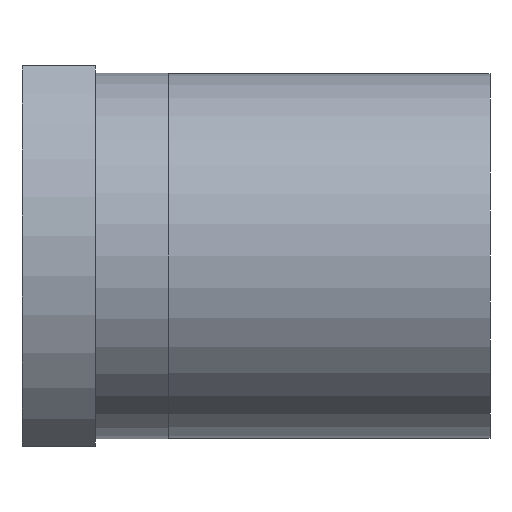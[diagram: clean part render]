
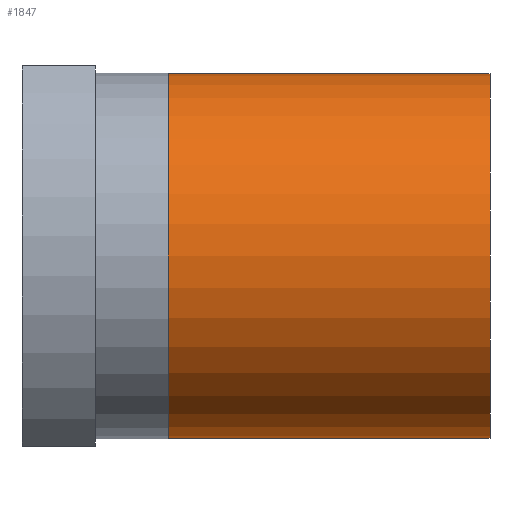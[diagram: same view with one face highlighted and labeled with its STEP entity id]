
A CAD part, front view. The second image highlights one B-rep face of the part: STEP entity #1847.
In plain terms, the highlighted cylindrical face has radius 62.375 mm (diameter 124.75 mm), a partial arc.
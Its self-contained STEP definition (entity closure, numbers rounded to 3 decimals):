
#32 = EDGE_CURVE ( 'NONE', #794, #1015, #469, .T. ) ;
#37 = VERTEX_POINT ( 'NONE', #498 ) ;
#55 = EDGE_CURVE ( 'NONE', #794, #37, #603, .T. ) ;
#177 = EDGE_CURVE ( 'NONE', #1015, #851, #1582, .T. ) ;
#393 = ORIENTED_EDGE ( 'NONE', *, *, #1881, .F. ) ;
#469 = CIRCLE ( 'NONE', #470, 62.375 ) ;
#470 = AXIS2_PLACEMENT_3D ( 'NONE', #471, #472, #473 ) ;
#471 = CARTESIAN_POINT ( 'NONE',  ( 160., 0., 0. ) ) ;
#472 = DIRECTION ( 'NONE',  ( -1., 0., 0. ) ) ;
#473 = DIRECTION ( 'NONE',  ( 0., 0., 1. ) ) ;
#485 = ORIENTED_EDGE ( 'NONE', *, *, #177, .T. ) ;
#498 = CARTESIAN_POINT ( 'NONE',  ( 50., 0., -62.375 ) ) ;
#603 = LINE ( 'NONE', #604, #605 ) ;
#604 = CARTESIAN_POINT ( 'NONE',  ( 0., 0., -62.375 ) ) ;
#605 = VECTOR ( 'NONE', #606, 1000. ) ;
#606 = DIRECTION ( 'NONE',  ( -1., 0., 0. ) ) ;
#794 = VERTEX_POINT ( 'NONE', #892 ) ;
#851 = VERTEX_POINT ( 'NONE', #935 ) ;
#892 = CARTESIAN_POINT ( 'NONE',  ( 160., 0., -62.375 ) ) ;
#935 = CARTESIAN_POINT ( 'NONE',  ( 50., 0., 62.375 ) ) ;
#1015 = VERTEX_POINT ( 'NONE', #1040 ) ;
#1040 = CARTESIAN_POINT ( 'NONE',  ( 160., 0., 62.375 ) ) ;
#1117 = FACE_OUTER_BOUND ( 'NONE', #1449, .T. ) ;
#1118 = CYLINDRICAL_SURFACE ( 'NONE', #1119, 62.375 ) ;
#1119 = AXIS2_PLACEMENT_3D ( 'NONE', #1120, #1121, #1122 ) ;
#1120 = CARTESIAN_POINT ( 'NONE',  ( 0., 0., 0. ) ) ;
#1121 = DIRECTION ( 'NONE',  ( -1., 0., 0. ) ) ;
#1122 = DIRECTION ( 'NONE',  ( 0., 0., 1. ) ) ;
#1315 = CIRCLE ( 'NONE', #1316, 62.375 ) ;
#1316 = AXIS2_PLACEMENT_3D ( 'NONE', #1317, #1318, #1319 ) ;
#1317 = CARTESIAN_POINT ( 'NONE',  ( 50., 0., 0. ) ) ;
#1318 = DIRECTION ( 'NONE',  ( -1., 0., 0. ) ) ;
#1319 = DIRECTION ( 'NONE',  ( 0., 0., 1. ) ) ;
#1449 = EDGE_LOOP ( 'NONE', ( #1871, #1808, #485, #393 ) ) ;
#1582 = LINE ( 'NONE', #1583, #1584 ) ;
#1583 = CARTESIAN_POINT ( 'NONE',  ( 0., 0., 62.375 ) ) ;
#1584 = VECTOR ( 'NONE', #1585, 1000. ) ;
#1585 = DIRECTION ( 'NONE',  ( -1., 0., 0. ) ) ;
#1808 = ORIENTED_EDGE ( 'NONE', *, *, #32, .T. ) ;
#1847 = ADVANCED_FACE ( 'NONE', ( #1117 ), #1118, .T. ) ;
#1871 = ORIENTED_EDGE ( 'NONE', *, *, #55, .F. ) ;
#1881 = EDGE_CURVE ( 'NONE', #37, #851, #1315, .T. ) ;
